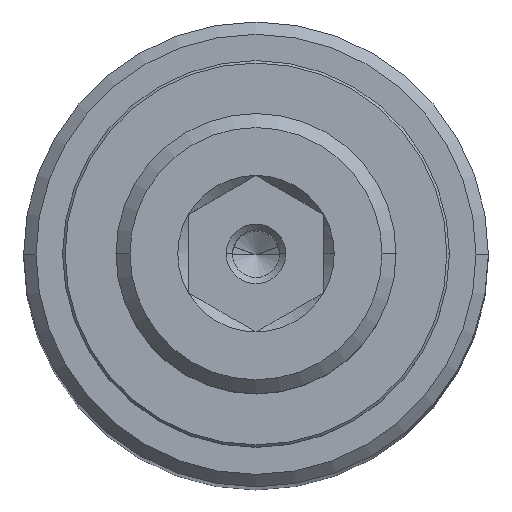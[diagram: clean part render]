
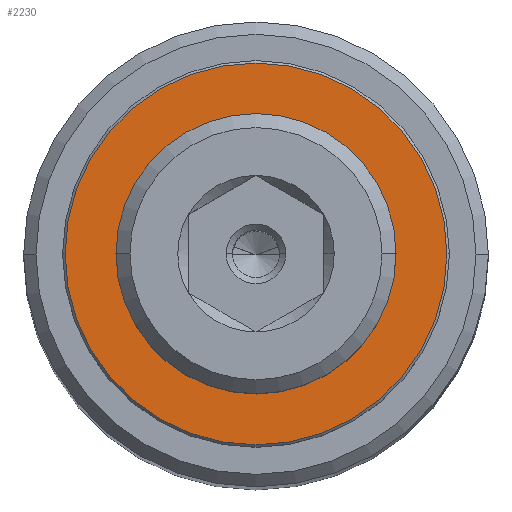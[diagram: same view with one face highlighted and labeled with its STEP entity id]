
A CAD part, top view. The second image highlights one B-rep face of the part: STEP entity #2230.
In plain terms, the highlighted planar face has unit normal (0, 0, 1).
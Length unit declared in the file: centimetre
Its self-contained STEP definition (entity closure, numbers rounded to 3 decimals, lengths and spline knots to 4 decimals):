
#134 = CIRCLE ( 'NONE', #1259, 0.3912 ) ;
#202 = CARTESIAN_POINT ( 'NONE',  ( 0., 0., 4.2799 ) ) ;
#203 = DIRECTION ( 'NONE',  ( 0., 0., -1. ) ) ;
#204 = DIRECTION ( 'NONE',  ( -1., 0., 0. ) ) ;
#445 = PLANE ( 'NONE',  #1160 ) ;
#447 = CARTESIAN_POINT ( 'NONE',  ( 0., 0., 4.2799 ) ) ;
#452 = DIRECTION ( 'NONE',  ( 0., 0., -1. ) ) ;
#453 = DIRECTION ( 'NONE',  ( 0., 1., 0. ) ) ;
#645 = EDGE_LOOP ( 'NONE', ( #1361, #1533 ) ) ;
#1160 = AXIS2_PLACEMENT_3D ( 'NONE', #447, #452, #453 ) ;
#1259 = AXIS2_PLACEMENT_3D ( 'NONE', #2095, #2096, #2097 ) ;
#1318 = ORIENTED_EDGE ( 'NONE', *, *, #1682, .F. ) ;
#1361 = ORIENTED_EDGE ( 'NONE', *, *, #2726, .F. ) ;
#1392 = EDGE_LOOP ( 'NONE', ( #1407, #1318 ) ) ;
#1407 = ORIENTED_EDGE ( 'NONE', *, *, #1728, .F. ) ;
#1430 = VERTEX_POINT ( 'NONE', #2750 ) ;
#1533 = ORIENTED_EDGE ( 'NONE', *, *, #1617, .F. ) ;
#1617 = EDGE_CURVE ( 'NONE', #2858, #2877, #2777, .T. ) ;
#1682 = EDGE_CURVE ( 'NONE', #2863, #1430, #1815, .T. ) ;
#1728 = EDGE_CURVE ( 'NONE', #1430, #2863, #1873, .T. ) ;
#1815 = CIRCLE ( 'NONE', #2681, 0.2583 ) ;
#1873 = CIRCLE ( 'NONE', #2815, 0.2583 ) ;
#1957 = FACE_OUTER_BOUND ( 'NONE', #645, .T. ) ;
#1962 = FACE_BOUND ( 'NONE', #1392, .T. ) ;
#2095 = CARTESIAN_POINT ( 'NONE',  ( 0., 0., 4.2799 ) ) ;
#2096 = DIRECTION ( 'NONE',  ( 0., 0., -1. ) ) ;
#2097 = DIRECTION ( 'NONE',  ( -1., 0., 0. ) ) ;
#2111 = CARTESIAN_POINT ( 'NONE',  ( 0.3912, 0., 4.2799 ) ) ;
#2120 = CARTESIAN_POINT ( 'NONE',  ( -0.2583, 0., 4.2799 ) ) ;
#2134 = CARTESIAN_POINT ( 'NONE',  ( -0.3912, 0., 4.2799 ) ) ;
#2230 = ADVANCED_FACE ( 'NONE', ( #1957, #1962 ), #445, .F. ) ;
#2306 = CARTESIAN_POINT ( 'NONE',  ( 0., 0., 4.2799 ) ) ;
#2307 = DIRECTION ( 'NONE',  ( 0., 0., 1. ) ) ;
#2308 = DIRECTION ( 'NONE',  ( 1., 0., 0. ) ) ;
#2439 = CARTESIAN_POINT ( 'NONE',  ( 0., 0., 4.2799 ) ) ;
#2440 = DIRECTION ( 'NONE',  ( 0., 0., 1. ) ) ;
#2441 = DIRECTION ( 'NONE',  ( 1., 0., 0. ) ) ;
#2656 = AXIS2_PLACEMENT_3D ( 'NONE', #202, #203, #204 ) ;
#2681 = AXIS2_PLACEMENT_3D ( 'NONE', #2306, #2307, #2308 ) ;
#2726 = EDGE_CURVE ( 'NONE', #2877, #2858, #134, .T. ) ;
#2750 = CARTESIAN_POINT ( 'NONE',  ( 0.2583, 0., 4.2799 ) ) ;
#2777 = CIRCLE ( 'NONE', #2656, 0.3912 ) ;
#2815 = AXIS2_PLACEMENT_3D ( 'NONE', #2439, #2440, #2441 ) ;
#2858 = VERTEX_POINT ( 'NONE', #2111 ) ;
#2863 = VERTEX_POINT ( 'NONE', #2120 ) ;
#2877 = VERTEX_POINT ( 'NONE', #2134 ) ;
